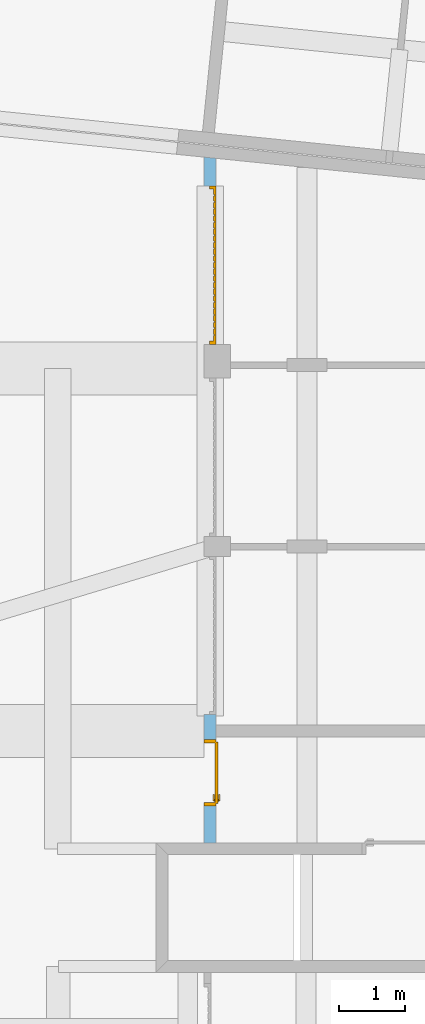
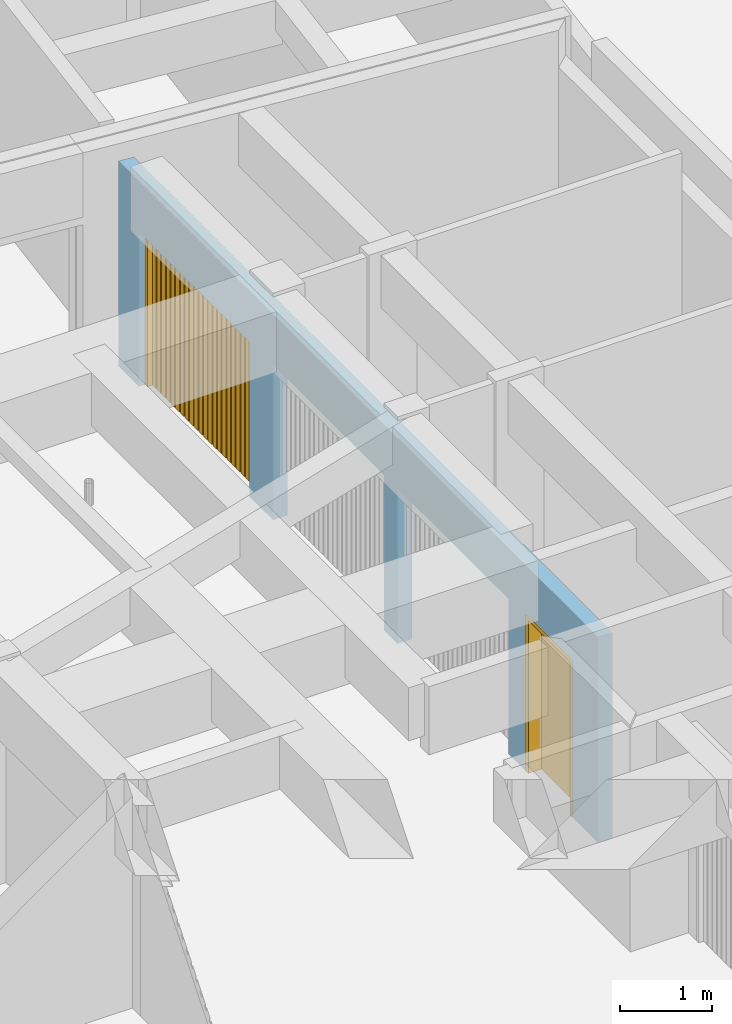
# One storey, part 14 of 41: 2 doors, 4 openings, plus 1 element that does not belong to this part.
"""IFC2X3 building model written with IfcOpenShell, lengths in millimetres."""

from ifc_helpers import new_model, entity, si_unit, converted_unit, derived_unit, money_unit, direction, frame, origin_with_axes, origin_2d_with_axis, place, context, subcontext, project, spatial, polyline, rectangle, outline, extrude, faceted_brep, source, transform, mapped, material, layer, layer_set, layer_usage, type_object, element, fill, save


model = new_model("IFC2X3")

# Units and contexts
model_context = context("Model", 3, precision=0.01, world=origin_with_axes(), true_north=direction((0.0, 1.0)))
body_context = subcontext(model_context, "Body", "Model", "MODEL_VIEW")
ifc_project = project(units=[si_unit("LENGTHUNIT", "METRE", prefix="MILLI"), si_unit("AREAUNIT", "SQUARE_METRE"), si_unit("VOLUMEUNIT", "CUBIC_METRE"), converted_unit("PLANEANGLEUNIT", "DEGREE", entity("IfcPlaneAngleMeasure", 0.0174532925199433), si_unit("PLANEANGLEUNIT", "RADIAN"), dimensions=[0, 0, 0, 0, 0, 0, 0]), money_unit("USD"), converted_unit("TIMEUNIT", "Year", entity("IfcTimeMeasure", 31557600.0), si_unit("TIMEUNIT", "SECOND"), dimensions=[0, 0, 1, 0, 0, 0, 0]), si_unit("MASSUNIT", "GRAM", prefix="KILO"), si_unit("THERMODYNAMICTEMPERATUREUNIT", "DEGREE_CELSIUS"), si_unit("LUMINOUSINTENSITYUNIT", "LUMEN"), si_unit("ENERGYUNIT", "JOULE", prefix="MEGA"), derived_unit("THERMALCONDUCTANCEUNIT", [(si_unit("POWERUNIT", "WATT"), 1), (si_unit("LENGTHUNIT", "METRE"), -1), (si_unit("THERMODYNAMICTEMPERATUREUNIT", "KELVIN"), -1)]), derived_unit("SPECIFICHEATCAPACITYUNIT", [(si_unit("ENERGYUNIT", "JOULE"), 1), (si_unit("MASSUNIT", "GRAM", prefix="KILO"), -1), (si_unit("THERMODYNAMICTEMPERATUREUNIT", "KELVIN"), -1)]), derived_unit("MASSDENSITYUNIT", [(si_unit("MASSUNIT", "GRAM", prefix="KILO"), 1), (si_unit("VOLUMEUNIT", "CUBIC_METRE"), -1)])], contexts=[model_context])

# Site, building, storey
site_placement = place(None, origin_with_axes())
site = spatial("IfcSite", under=ifc_project, at=site_placement, Name="Site", CompositionType="ELEMENT")
building_placement = place(site_placement, origin_with_axes())
building = spatial("IfcBuilding", under=site, at=building_placement, Name="Bâtiment", CompositionType="ELEMENT")
storey_placement = place(building_placement, origin_with_axes())
storey = spatial("IfcBuildingStorey", under=building, at=storey_placement, Name="sousol", CompositionType="ELEMENT", Elevation=0.0)

# Wall, openings, doors
ifc_material = material(Name="Parpaing 314940890")
ifc_layer = layer(ifc_material, 180.0, ventilated="UNKNOWN")
ifc_layer_set = layer_set([ifc_layer], Name="Beton  18 0170347028")
ifc_layer_usage = layer_usage(ifc_layer_set, "AXIS2", "POSITIVE", 0.0)
wall_type = type_object("IfcWallType", Name="Beton  18 0170347028 180", PredefinedType="NOTDEFINED")
wall_placement = place(storey_placement, frame((2228014.233344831, -622046.8706017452, 0.0), z_axis=(0.0, 0.0, 1.0), x_axis=(0.0, -1.0, 0.0)))
wall = element("IfcWallStandardCase", 1, at=wall_placement, inside=storey, type_object=wall_type, material=ifc_layer_usage, Name="Mur-133", context=body_context, shape_type="SweptSolid", body=[
    extrude(outline(polyline([(0.0, 0.0), (10386.64407747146, 0.0), (10386.64407747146, 179.99999999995), (18.29231084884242, 179.99999999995), (0.0, 0.0)])), origin_with_axes(), (0.0, 0.0, 1.0), 2719.999999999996),
])
opening_1_placement = place(wall_placement, frame((7245.875069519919, -2.273736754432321e-10, 0.0), z_axis=(0.0, 0.0, 1.0), x_axis=(1.0, 0.0, 0.0)))
element("IfcOpeningElement", 2, at=opening_1_placement, cuts=wall, Name="Por-296", context=body_context, shape_type="SweptSolid", body=[
    extrude(rectangle(XDim=2399.999999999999, YDim=2050.0, at=origin_2d_with_axis()), frame((0.0, 179.99999999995, 1025.0), z_axis=(0.0, -1.0, 0.0), x_axis=(1.0, 0.0, 0.0)), (0.0, 0.0, -1.0), 180.0),
    extrude(rectangle(XDim=2399.999999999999, YDim=2050.0, at=origin_2d_with_axis()), frame((0.0, 179.99999999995, 1025.0), z_axis=(0.0, 1.0, 0.0), x_axis=(1.0, 0.0, 0.0)), (0.0, 0.0, -1.0), 180.0),
])
opening_2_placement = place(wall_placement, frame((1635.816724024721, -2.273736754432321e-10, 0.0), z_axis=(0.0, 0.0, 1.0), x_axis=(1.0, 0.0, 0.0)))
opening_2 = element("IfcOpeningElement", 3, at=opening_2_placement, cuts=wall, Name="Por-296", context=body_context, shape_type="SweptSolid", body=[
    extrude(rectangle(XDim=2400.000000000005, YDim=2050.0, at=origin_2d_with_axis()), frame((0.0, 179.99999999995, 1025.0), z_axis=(0.0, -1.0, 0.0), x_axis=(1.0, 0.0, 0.0)), (0.0, 0.0, -1.0), 180.0),
    extrude(rectangle(XDim=2400.000000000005, YDim=2050.0, at=origin_2d_with_axis()), frame((0.0, 179.99999999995, 1025.0), z_axis=(0.0, 1.0, 0.0), x_axis=(1.0, 0.0, 0.0)), (0.0, 0.0, -1.0), 180.0),
])
opening_3_placement = place(wall_placement, frame((4545.875069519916, -2.273736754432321e-10, 0.0), z_axis=(0.0, 0.0, 1.0), x_axis=(1.0, 0.0, 0.0)))
element("IfcOpeningElement", 4, at=opening_3_placement, cuts=wall, Name="Por-296", context=body_context, shape_type="SweptSolid", body=[
    extrude(rectangle(XDim=2400.000000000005, YDim=2050.0, at=origin_2d_with_axis()), frame((0.0, 179.99999999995, 1025.0), z_axis=(0.0, -1.0, 0.0), x_axis=(1.0, 0.0, 0.0)), (0.0, 0.0, -1.0), 180.0),
    extrude(rectangle(XDim=2400.000000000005, YDim=2050.0, at=origin_2d_with_axis()), frame((0.0, 179.99999999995, 1025.0), z_axis=(0.0, 1.0, 0.0), x_axis=(1.0, 0.0, 0.0)), (0.0, 0.0, -1.0), 180.0),
])
opening_4_placement = place(wall_placement, frame((9324.57442607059, -2.273736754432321e-10, 0.0), z_axis=(0.0, 0.0, 1.0), x_axis=(1.0, 0.0, 0.0)))
opening_4 = element("IfcOpeningElement", 5, at=opening_4_placement, cuts=wall, Name="Por-298", context=body_context, shape_type="SweptSolid", body=[
    extrude(rectangle(XDim=1010.00001192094, YDim=2080.0, at=origin_2d_with_axis()), frame((-5.960465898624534e-06, -179.99999999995, 1040.0), z_axis=(0.0, -1.0, 0.0), x_axis=(-1.0, 0.0, 0.0)), (0.0, 0.0, -1.0), 360.0),
])
door_style_1 = type_object("IfcDoorStyle", Name="P_garage 1", ConstructionType="NOTDEFINED", OperationType="NOTDEFINED", ParameterTakesPrecedence=False, Sizeable=False)
shared_shape_1 = source(origin_with_axes(), body_context, "Body", "Brep", [
    faceted_brep([(1200.0, 0.0, 0.0), (1200.0, -99.99999999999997, 0.0), (1150.0, -99.99999999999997, 0.0), (1150.0, 0.0, 0.0), (1200.0, 0.0, 2050.0), (1200.0, -99.99999999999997, 2050.0), (-1200.0, -99.99999999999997, 2050.0), (-1200.0, -99.99999999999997, 0.0), (-1150.0, -99.99999999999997, 0.0), (-1150.0, -99.99999999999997, 2000.0), (1150.0, -99.99999999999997, 2000.0), (1150.0, 0.0, 2000.0), (-1150.0, 0.0, 2000.0), (-1150.0, 0.0, 0.0), (-1200.0, 0.0, 0.0), (-1200.0, 0.0, 2050.0)], [[[0, 1, 2, 3]], [[4, 5, 1, 0]], [[1, 5, 6, 7, 8, 9, 10, 2]], [[3, 2, 10, 11]], [[0, 3, 11, 12, 13, 14, 15, 4]], [[15, 6, 5, 4]], [[14, 7, 6, 15]], [[13, 8, 7, 14]], [[12, 9, 8, 13]], [[11, 10, 9, 12]]]),
    faceted_brep([(1069.130434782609, -39.99999999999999, 0.0), (1069.130434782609, -39.99999999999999, 2000.0), (1069.130434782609, -26.66666666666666, 2000.0), (1069.130434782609, -26.66666666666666, 0.0), (1150.0, -39.99999999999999, 0.0), (1150.0, -39.99999999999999, 2000.0), (1150.0, -26.66666666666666, 2000.0), (1150.0, -26.66666666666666, 0.0)], [[[0, 1, 2, 3]], [[0, 4, 5, 1]], [[1, 5, 6, 2]], [[3, 2, 6, 7]], [[4, 0, 3, 7]], [[5, 4, 7, 6]]]),
    faceted_brep([(968.2608695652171, -39.99999999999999, 0.0), (968.2608695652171, -39.99999999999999, 2000.0), (968.2608695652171, -26.66666666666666, 2000.0), (968.2608695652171, -26.66666666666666, 0.0), (1049.130434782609, -39.99999999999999, 0.0), (1049.130434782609, -39.99999999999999, 2000.0), (1049.130434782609, -26.66666666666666, 2000.0), (1049.130434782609, -26.66666666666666, 0.0)], [[[0, 1, 2, 3]], [[0, 4, 5, 1]], [[1, 5, 6, 2]], [[3, 2, 6, 7]], [[4, 0, 3, 7]], [[5, 4, 7, 6]]]),
    faceted_brep([(867.3913043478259, -39.99999999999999, 0.0), (867.3913043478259, -39.99999999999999, 2000.0), (867.3913043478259, -26.66666666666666, 2000.0), (867.3913043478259, -26.66666666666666, 0.0), (948.260869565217, -39.99999999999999, 0.0), (948.260869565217, -39.99999999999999, 2000.0), (948.260869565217, -26.66666666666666, 2000.0), (948.260869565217, -26.66666666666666, 0.0)], [[[0, 1, 2, 3]], [[0, 4, 5, 1]], [[1, 5, 6, 2]], [[3, 2, 6, 7]], [[4, 0, 3, 7]], [[5, 4, 7, 6]]]),
    faceted_brep([(766.5217391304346, -39.99999999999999, 0.0), (766.5217391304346, -39.99999999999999, 2000.0), (766.5217391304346, -26.66666666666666, 2000.0), (766.5217391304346, -26.66666666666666, 0.0), (847.3913043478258, -39.99999999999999, 0.0), (847.3913043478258, -39.99999999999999, 2000.0), (847.3913043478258, -26.66666666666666, 2000.0), (847.3913043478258, -26.66666666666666, 0.0)], [[[0, 1, 2, 3]], [[0, 4, 5, 1]], [[1, 5, 6, 2]], [[3, 2, 6, 7]], [[4, 0, 3, 7]], [[5, 4, 7, 6]]]),
    faceted_brep([(665.6521739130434, -39.99999999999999, 0.0), (665.6521739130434, -39.99999999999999, 2000.0), (665.6521739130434, -26.66666666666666, 2000.0), (665.6521739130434, -26.66666666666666, 0.0), (746.5217391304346, -39.99999999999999, 0.0), (746.5217391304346, -39.99999999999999, 2000.0), (746.5217391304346, -26.66666666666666, 2000.0), (746.5217391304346, -26.66666666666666, 0.0)], [[[0, 1, 2, 3]], [[0, 4, 5, 1]], [[1, 5, 6, 2]], [[3, 2, 6, 7]], [[4, 0, 3, 7]], [[5, 4, 7, 6]]]),
    faceted_brep([(564.7826086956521, -39.99999999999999, 0.0), (564.7826086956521, -39.99999999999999, 2000.0), (564.7826086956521, -26.66666666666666, 2000.0), (564.7826086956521, -26.66666666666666, 0.0), (645.6521739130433, -39.99999999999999, 0.0), (645.6521739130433, -39.99999999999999, 2000.0), (645.6521739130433, -26.66666666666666, 2000.0), (645.6521739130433, -26.66666666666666, 0.0)], [[[0, 1, 2, 3]], [[0, 4, 5, 1]], [[1, 5, 6, 2]], [[3, 2, 6, 7]], [[4, 0, 3, 7]], [[5, 4, 7, 6]]]),
    faceted_brep([(463.9130434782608, -39.99999999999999, 0.0), (463.9130434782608, -39.99999999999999, 2000.0), (463.9130434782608, -26.66666666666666, 2000.0), (463.9130434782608, -26.66666666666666, 0.0), (544.782608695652, -39.99999999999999, 0.0), (544.782608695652, -39.99999999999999, 2000.0), (544.782608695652, -26.66666666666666, 2000.0), (544.782608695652, -26.66666666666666, 0.0)], [[[0, 1, 2, 3]], [[0, 4, 5, 1]], [[1, 5, 6, 2]], [[3, 2, 6, 7]], [[4, 0, 3, 7]], [[5, 4, 7, 6]]]),
    faceted_brep([(363.0434782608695, -39.99999999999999, 0.0), (363.0434782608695, -39.99999999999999, 2000.0), (363.0434782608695, -26.66666666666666, 2000.0), (363.0434782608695, -26.66666666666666, 0.0), (443.9130434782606, -39.99999999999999, 0.0), (443.9130434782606, -39.99999999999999, 2000.0), (443.9130434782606, -26.66666666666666, 2000.0), (443.9130434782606, -26.66666666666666, 0.0)], [[[0, 1, 2, 3]], [[0, 4, 5, 1]], [[1, 5, 6, 2]], [[3, 2, 6, 7]], [[4, 0, 3, 7]], [[5, 4, 7, 6]]]),
    faceted_brep([(262.1739130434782, -39.99999999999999, 0.0), (262.1739130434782, -39.99999999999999, 2000.0), (262.1739130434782, -26.66666666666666, 2000.0), (262.1739130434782, -26.66666666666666, 0.0), (343.0434782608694, -39.99999999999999, 0.0), (343.0434782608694, -39.99999999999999, 2000.0), (343.0434782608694, -26.66666666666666, 2000.0), (343.0434782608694, -26.66666666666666, 0.0)], [[[0, 1, 2, 3]], [[0, 4, 5, 1]], [[1, 5, 6, 2]], [[3, 2, 6, 7]], [[4, 0, 3, 7]], [[5, 4, 7, 6]]]),
    faceted_brep([(161.3043478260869, -39.99999999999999, 0.0), (161.3043478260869, -39.99999999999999, 2000.0), (161.3043478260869, -26.66666666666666, 2000.0), (161.3043478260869, -26.66666666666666, 0.0), (242.1739130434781, -39.99999999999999, 0.0), (242.1739130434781, -39.99999999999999, 2000.0), (242.1739130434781, -26.66666666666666, 2000.0), (242.1739130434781, -26.66666666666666, 0.0)], [[[0, 1, 2, 3]], [[0, 4, 5, 1]], [[1, 5, 6, 2]], [[3, 2, 6, 7]], [[4, 0, 3, 7]], [[5, 4, 7, 6]]]),
    faceted_brep([(60.43478260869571, -39.99999999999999, 0.0), (60.43478260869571, -39.99999999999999, 2000.0), (60.43478260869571, -26.66666666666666, 2000.0), (60.43478260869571, -26.66666666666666, 0.0), (141.3043478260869, -39.99999999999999, 0.0), (141.3043478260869, -39.99999999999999, 2000.0), (141.3043478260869, -26.66666666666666, 2000.0), (141.3043478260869, -26.66666666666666, 0.0)], [[[0, 1, 2, 3]], [[0, 4, 5, 1]], [[1, 5, 6, 2]], [[3, 2, 6, 7]], [[4, 0, 3, 7]], [[5, 4, 7, 6]]]),
    faceted_brep([(-40.43478260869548, -39.99999999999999, 0.0), (-40.43478260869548, -39.99999999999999, 2000.0), (-40.43478260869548, -26.66666666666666, 2000.0), (-40.43478260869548, -26.66666666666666, 0.0), (40.4347826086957, -39.99999999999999, 0.0), (40.4347826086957, -39.99999999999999, 2000.0), (40.4347826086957, -26.66666666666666, 2000.0), (40.4347826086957, -26.66666666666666, 0.0)], [[[0, 1, 2, 3]], [[0, 4, 5, 1]], [[1, 5, 6, 2]], [[3, 2, 6, 7]], [[4, 0, 3, 7]], [[5, 4, 7, 6]]]),
    faceted_brep([(-141.3043478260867, -39.99999999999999, 0.0), (-141.3043478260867, -39.99999999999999, 2000.0), (-141.3043478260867, -26.66666666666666, 2000.0), (-141.3043478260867, -26.66666666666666, 0.0), (-60.43478260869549, -39.99999999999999, 0.0), (-60.43478260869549, -39.99999999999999, 2000.0), (-60.43478260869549, -26.66666666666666, 2000.0), (-60.43478260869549, -26.66666666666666, 0.0)], [[[0, 1, 2, 3]], [[0, 4, 5, 1]], [[1, 5, 6, 2]], [[3, 2, 6, 7]], [[4, 0, 3, 7]], [[5, 4, 7, 6]]]),
    faceted_brep([(-242.1739130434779, -39.99999999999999, 0.0), (-242.1739130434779, -39.99999999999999, 2000.0), (-242.1739130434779, -26.66666666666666, 2000.0), (-242.1739130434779, -26.66666666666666, 0.0), (-161.3043478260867, -39.99999999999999, 0.0), (-161.3043478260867, -39.99999999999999, 2000.0), (-161.3043478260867, -26.66666666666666, 2000.0), (-161.3043478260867, -26.66666666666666, 0.0)], [[[0, 1, 2, 3]], [[0, 4, 5, 1]], [[1, 5, 6, 2]], [[3, 2, 6, 7]], [[4, 0, 3, 7]], [[5, 4, 7, 6]]]),
    faceted_brep([(-343.0434782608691, -39.99999999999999, 0.0), (-343.0434782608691, -39.99999999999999, 2000.0), (-343.0434782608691, -26.66666666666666, 2000.0), (-343.0434782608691, -26.66666666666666, 0.0), (-262.1739130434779, -39.99999999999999, 0.0), (-262.1739130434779, -39.99999999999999, 2000.0), (-262.1739130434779, -26.66666666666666, 2000.0), (-262.1739130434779, -26.66666666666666, 0.0)], [[[0, 1, 2, 3]], [[0, 4, 5, 1]], [[1, 5, 6, 2]], [[3, 2, 6, 7]], [[4, 0, 3, 7]], [[5, 4, 7, 6]]]),
    faceted_brep([(-443.9130434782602, -39.99999999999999, 0.0), (-443.9130434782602, -39.99999999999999, 2000.0), (-443.9130434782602, -26.66666666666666, 2000.0), (-443.9130434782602, -26.66666666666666, 0.0), (-363.0434782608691, -39.99999999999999, 0.0), (-363.0434782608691, -39.99999999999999, 2000.0), (-363.0434782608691, -26.66666666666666, 2000.0), (-363.0434782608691, -26.66666666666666, 0.0)], [[[0, 1, 2, 3]], [[0, 4, 5, 1]], [[1, 5, 6, 2]], [[3, 2, 6, 7]], [[4, 0, 3, 7]], [[5, 4, 7, 6]]]),
    faceted_brep([(-544.7826086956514, -39.99999999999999, 0.0), (-544.7826086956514, -39.99999999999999, 2000.0), (-544.7826086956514, -26.66666666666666, 2000.0), (-544.7826086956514, -26.66666666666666, 0.0), (-463.9130434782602, -39.99999999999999, 0.0), (-463.9130434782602, -39.99999999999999, 2000.0), (-463.9130434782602, -26.66666666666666, 2000.0), (-463.9130434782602, -26.66666666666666, 0.0)], [[[0, 1, 2, 3]], [[0, 4, 5, 1]], [[1, 5, 6, 2]], [[3, 2, 6, 7]], [[4, 0, 3, 7]], [[5, 4, 7, 6]]]),
    faceted_brep([(-645.6521739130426, -39.99999999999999, 0.0), (-645.6521739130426, -39.99999999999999, 2000.0), (-645.6521739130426, -26.66666666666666, 2000.0), (-645.6521739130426, -26.66666666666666, 0.0), (-564.7826086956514, -39.99999999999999, 0.0), (-564.7826086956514, -39.99999999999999, 2000.0), (-564.7826086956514, -26.66666666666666, 2000.0), (-564.7826086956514, -26.66666666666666, 0.0)], [[[0, 1, 2, 3]], [[0, 4, 5, 1]], [[1, 5, 6, 2]], [[3, 2, 6, 7]], [[4, 0, 3, 7]], [[5, 4, 7, 6]]]),
    faceted_brep([(-746.5217391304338, -39.99999999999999, 0.0), (-746.5217391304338, -39.99999999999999, 2000.0), (-746.5217391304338, -26.66666666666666, 2000.0), (-746.5217391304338, -26.66666666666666, 0.0), (-665.6521739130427, -39.99999999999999, 0.0), (-665.6521739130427, -39.99999999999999, 2000.0), (-665.6521739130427, -26.66666666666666, 2000.0), (-665.6521739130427, -26.66666666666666, 0.0)], [[[0, 1, 2, 3]], [[0, 4, 5, 1]], [[1, 5, 6, 2]], [[3, 2, 6, 7]], [[4, 0, 3, 7]], [[5, 4, 7, 6]]]),
    faceted_brep([(-847.391304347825, -39.99999999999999, 0.0), (-847.391304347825, -39.99999999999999, 2000.0), (-847.391304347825, -26.66666666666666, 2000.0), (-847.391304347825, -26.66666666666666, 0.0), (-766.5217391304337, -39.99999999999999, 0.0), (-766.5217391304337, -39.99999999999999, 2000.0), (-766.5217391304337, -26.66666666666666, 2000.0), (-766.5217391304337, -26.66666666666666, 0.0)], [[[0, 1, 2, 3]], [[0, 4, 5, 1]], [[1, 5, 6, 2]], [[3, 2, 6, 7]], [[4, 0, 3, 7]], [[5, 4, 7, 6]]]),
    faceted_brep([(-948.2608695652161, -39.99999999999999, 0.0), (-948.2608695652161, -39.99999999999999, 2000.0), (-948.2608695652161, -26.66666666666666, 2000.0), (-948.2608695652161, -26.66666666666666, 0.0), (-867.391304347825, -39.99999999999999, 0.0), (-867.391304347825, -39.99999999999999, 2000.0), (-867.391304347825, -26.66666666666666, 2000.0), (-867.391304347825, -26.66666666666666, 0.0)], [[[0, 1, 2, 3]], [[0, 4, 5, 1]], [[1, 5, 6, 2]], [[3, 2, 6, 7]], [[4, 0, 3, 7]], [[5, 4, 7, 6]]]),
    faceted_brep([(-1049.130434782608, -39.99999999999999, 0.0), (-1049.130434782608, -39.99999999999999, 2000.0), (-1049.130434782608, -26.66666666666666, 2000.0), (-1049.130434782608, -26.66666666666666, 0.0), (-968.2608695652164, -39.99999999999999, 0.0), (-968.2608695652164, -39.99999999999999, 2000.0), (-968.2608695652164, -26.66666666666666, 2000.0), (-968.2608695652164, -26.66666666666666, 0.0)], [[[0, 1, 2, 3]], [[0, 4, 5, 1]], [[1, 5, 6, 2]], [[3, 2, 6, 7]], [[4, 0, 3, 7]], [[5, 4, 7, 6]]]),
    faceted_brep([(-1149.999999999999, -39.99999999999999, 0.0), (-1149.999999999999, -39.99999999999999, 2000.0), (-1149.999999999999, -26.66666666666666, 2000.0), (-1149.999999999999, -26.66666666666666, 0.0), (-1069.130434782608, -39.99999999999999, 0.0), (-1069.130434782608, -39.99999999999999, 2000.0), (-1069.130434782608, -26.66666666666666, 2000.0), (-1069.130434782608, -26.66666666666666, 0.0)], [[[0, 1, 2, 3]], [[0, 4, 5, 1]], [[1, 5, 6, 2]], [[3, 2, 6, 7]], [[4, 0, 3, 7]], [[5, 4, 7, 6]]]),
    faceted_brep([(1150.0, -26.66666666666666, 0.0), (-1150.0, -26.66666666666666, 0.0), (-1150.0, 0.0, 0.0), (1150.0, 0.0, 0.0), (1150.0, -26.66666666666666, 2000.0), (-1150.0, -26.66666666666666, 2000.0), (-1150.0, 0.0, 2000.0), (1150.0, 0.0, 2000.0)], [[[0, 1, 2, 3]], [[0, 4, 5, 1]], [[1, 5, 6, 2]], [[3, 2, 6, 7]], [[4, 0, 3, 7]], [[5, 4, 7, 6]]]),
])
door_1_placement = place(opening_2_placement, frame((-1200.000000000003, -2.273736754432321e-10, 0.0), z_axis=(0.0, 0.0, 1.0), x_axis=(1.0, 0.0, 0.0)))
door_1 = element("IfcDoor", 6, at=door_1_placement, inside=storey, type_object=door_style_1, Name="Por-296", OverallHeight=2050.0, OverallWidth=2400.0, context=body_context, shape_type="MappedRepresentation", body=[
    mapped(shared_shape_1, transform((1200.000000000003, 179.99999999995, 0.0))),
])
fill(opening_2, door_1)
door_style_2 = type_object("IfcDoorStyle", Name="Porte_1v", ConstructionType="NOTDEFINED", OperationType="NOTDEFINED", ParameterTakesPrecedence=False, Sizeable=False)
shared_shape_2 = source(origin_with_axes(), body_context, "Body", "Brep", [
    faceted_brep([(-505.0, 0.0, 0.0), (-505.0, 0.0, 2080.0), (505.0, 0.0, 2080.0), (505.0, 0.0, 0.0), (465.0, 0.0, 0.0), (464.9999999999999, 0.0, 2040.0), (-464.9999999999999, 0.0, 2040.0), (-465.0, 0.0, 0.0), (-505.0, -180.0, 0.0), (-505.0, -180.0, 2080.0), (505.0, -180.0, 2080.0), (505.0, -180.0, 0.0), (450.0, -180.0, 0.0), (450.0, -15.0, 0.0), (465.0, -15.0, 0.0), (464.9999999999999, -15.0, 2040.0), (-464.9999999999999, -15.0, 2040.0), (-465.0, -15.0, 0.0), (-450.0, -15.0, 0.0), (-450.0, -180.0, 0.0), (-450.0, -180.0, 2025.0), (450.0, -180.0, 2025.0), (450.0, -15.0, 2025.0), (-450.0, -15.0, 2025.0)], [[[0, 1, 2, 3, 4, 5, 6, 7]], [[8, 9, 1, 0]], [[9, 10, 2, 1]], [[10, 11, 3, 2]], [[3, 11, 12, 13, 14, 4]], [[5, 4, 14, 15]], [[6, 5, 15, 16]], [[7, 6, 16, 17]], [[0, 7, 17, 18, 19, 8]], [[19, 20, 21, 12, 11, 10, 9, 8]], [[22, 13, 12, 21]], [[17, 16, 15, 14, 13, 22, 23, 18]], [[18, 23, 20, 19]], [[23, 22, 21, 20]]]),
    faceted_brep([(400.0, -15.0, 900.0), (400.0, -15.0, 1100.0), (440.0, -15.0, 1100.0), (440.0, -15.0, 900.0), (400.0, -25.0, 900.0), (400.0, -25.0, 1100.0), (440.0, -25.0, 1100.0), (440.0, -25.0, 900.0)], [[[0, 1, 2, 3]], [[0, 4, 5, 1]], [[1, 5, 6, 2]], [[2, 6, 7, 3]], [[3, 7, 4, 0]], [[7, 6, 5, 4]]]),
    faceted_brep([(329.9999999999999, -25.0, 1000.0), (329.9999999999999, -25.0, 1020.0), (430.0, -25.0, 1020.0), (430.0, -25.0, 1000.0), (329.9999999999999, -45.0, 1000.0), (329.9999999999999, -45.0, 1020.0), (430.0, -45.0, 1020.0), (430.0, -45.0, 1000.0)], [[[0, 1, 2, 3]], [[0, 4, 5, 1]], [[1, 5, 6, 2]], [[2, 6, 7, 3]], [[3, 7, 4, 0]], [[7, 6, 5, 4]]]),
    faceted_brep([(400.0, 35.0, 900.0), (400.0, 35.0, 1100.0), (440.0, 35.0, 1100.0), (440.0, 35.0, 900.0), (400.0, 25.0, 900.0), (400.0, 25.0, 1100.0), (440.0, 25.0, 1100.0), (440.0, 25.0, 900.0)], [[[0, 1, 2, 3]], [[0, 4, 5, 1]], [[1, 5, 6, 2]], [[2, 6, 7, 3]], [[3, 7, 4, 0]], [[7, 6, 5, 4]]]),
    faceted_brep([(329.9999999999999, 55.00000000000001, 1000.0), (329.9999999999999, 55.00000000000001, 1020.0), (430.0, 55.00000000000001, 1020.0), (430.0, 55.00000000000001, 1000.0), (329.9999999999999, 35.0, 1000.0), (329.9999999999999, 35.0, 1020.0), (430.0, 35.0, 1020.0), (430.0, 35.0, 1000.0)], [[[0, 1, 2, 3]], [[0, 4, 5, 1]], [[1, 5, 6, 2]], [[2, 6, 7, 3]], [[3, 7, 4, 0]], [[7, 6, 5, 4]]]),
    faceted_brep([(465.0, 25.0, 0.0), (465.0, -15.0, 0.0), (-465.0, -15.0, 0.0), (-465.0, 25.0, 0.0), (465.0, 25.0, 2040.0), (465.0, -15.0, 2040.0), (-465.0, -15.0, 2040.0), (-465.0, 25.0, 2040.0)], [[[0, 1, 2, 3]], [[4, 5, 1, 0]], [[1, 5, 6, 2]], [[3, 2, 6, 7]], [[0, 3, 7, 4]], [[7, 6, 5, 4]]]),
])
door_2_placement = place(opening_4_placement, frame((-465.0000000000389, -2.273736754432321e-10, 0.0), z_axis=(0.0, 0.0, 1.0), x_axis=(1.0, 0.0, 0.0)))
door_2 = element("IfcDoor", 7, at=door_2_placement, inside=storey, type_object=door_style_2, Name="Por-298", OverallHeight=2040.0, OverallWidth=930.0, context=body_context, shape_type="MappedRepresentation", body=[
    mapped(shared_shape_2, transform((465.0000000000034, 179.99999999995, 0.0))),
])
fill(opening_4, door_2)

save(model, "model.ifc")
